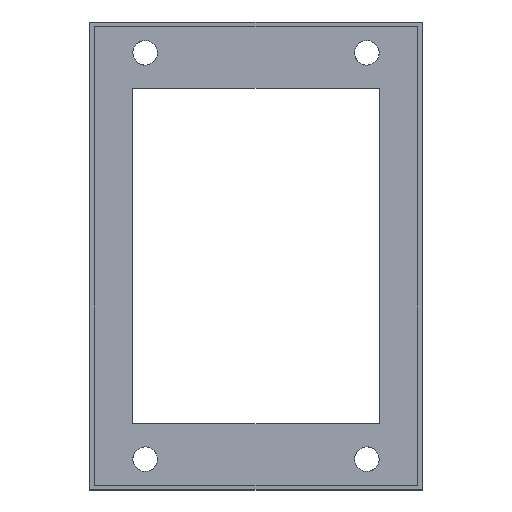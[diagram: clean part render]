
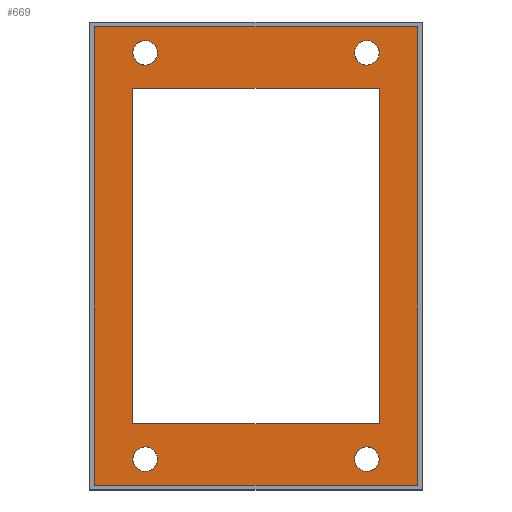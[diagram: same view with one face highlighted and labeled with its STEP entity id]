
A CAD part, top view. The second image highlights one B-rep face of the part: STEP entity #669.
In plain terms, the highlighted planar face has unit normal (0, 0, 1).
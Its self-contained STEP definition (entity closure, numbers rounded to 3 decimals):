
#231=CARTESIAN_POINT('Vertex',(-26.2,-37.2,0.8)) ;
#234=CARTESIAN_POINT('Line Origine',(-26.2,0.,0.8)) ;
#238=CARTESIAN_POINT('Vertex',(-26.2,37.2,0.8)) ;
#262=CARTESIAN_POINT('Vertex',(26.2,-37.2,0.8)) ;
#265=CARTESIAN_POINT('Line Origine',(0.,-37.2,0.8)) ;
#282=CARTESIAN_POINT('Line Origine',(26.2,0.,0.8)) ;
#286=CARTESIAN_POINT('Vertex',(26.2,37.2,0.8)) ;
#306=CARTESIAN_POINT('Line Origine',(0.,37.2,0.8)) ;
#323=CARTESIAN_POINT('Line Origine',(-20.,0.,0.8)) ;
#327=CARTESIAN_POINT('Vertex',(-20.,27.25,0.8)) ;
#329=CARTESIAN_POINT('Vertex',(-20.,-27.25,0.8)) ;
#363=CARTESIAN_POINT('Line Origine',(0.,-27.25,0.8)) ;
#367=CARTESIAN_POINT('Vertex',(20.,-27.25,0.8)) ;
#394=CARTESIAN_POINT('Line Origine',(0.,27.25,0.8)) ;
#398=CARTESIAN_POINT('Vertex',(20.,27.25,0.8)) ;
#425=CARTESIAN_POINT('Line Origine',(20.,0.,0.8)) ;
#532=CARTESIAN_POINT('Axis2P3D Location',(0.,0.,0.8)) ;
#550=CARTESIAN_POINT('Control Point',(-16.,-33.,0.8)) ;
#551=CARTESIAN_POINT('Control Point',(-16.,-32.372,0.8)) ;
#552=CARTESIAN_POINT('Control Point',(-16.247,-31.743,0.8)) ;
#553=CARTESIAN_POINT('Control Point',(-16.743,-31.247,0.8)) ;
#554=CARTESIAN_POINT('Control Point',(-18.,-30.753,0.8)) ;
#555=CARTESIAN_POINT('Control Point',(-19.257,-31.247,0.8)) ;
#556=CARTESIAN_POINT('Control Point',(-19.753,-31.743,0.8)) ;
#557=CARTESIAN_POINT('Control Point',(-20.,-32.372,0.8)) ;
#558=CARTESIAN_POINT('Control Point',(-20.,-33.,0.8)) ;
#559=CARTESIAN_POINT('Vertex',(-16.,-33.,0.8)) ;
#561=CARTESIAN_POINT('Vertex',(-20.,-33.,0.8)) ;
#565=CARTESIAN_POINT('Control Point',(-20.,-33.,0.8)) ;
#566=CARTESIAN_POINT('Control Point',(-20.,-33.628,0.8)) ;
#567=CARTESIAN_POINT('Control Point',(-19.753,-34.257,0.8)) ;
#568=CARTESIAN_POINT('Control Point',(-19.257,-34.753,0.8)) ;
#569=CARTESIAN_POINT('Control Point',(-18.,-35.247,0.8)) ;
#570=CARTESIAN_POINT('Control Point',(-16.743,-34.753,0.8)) ;
#571=CARTESIAN_POINT('Control Point',(-16.247,-34.257,0.8)) ;
#572=CARTESIAN_POINT('Control Point',(-16.,-33.628,0.8)) ;
#573=CARTESIAN_POINT('Control Point',(-16.,-33.,0.8)) ;
#580=CARTESIAN_POINT('Control Point',(20.,-33.,0.8)) ;
#581=CARTESIAN_POINT('Control Point',(20.,-32.372,0.8)) ;
#582=CARTESIAN_POINT('Control Point',(19.753,-31.743,0.8)) ;
#583=CARTESIAN_POINT('Control Point',(19.257,-31.247,0.8)) ;
#584=CARTESIAN_POINT('Control Point',(18.,-30.753,0.8)) ;
#585=CARTESIAN_POINT('Control Point',(16.743,-31.247,0.8)) ;
#586=CARTESIAN_POINT('Control Point',(16.247,-31.743,0.8)) ;
#587=CARTESIAN_POINT('Control Point',(16.,-32.372,0.8)) ;
#588=CARTESIAN_POINT('Control Point',(16.,-33.,0.8)) ;
#589=CARTESIAN_POINT('Vertex',(20.,-33.,0.8)) ;
#591=CARTESIAN_POINT('Vertex',(16.,-33.,0.8)) ;
#595=CARTESIAN_POINT('Control Point',(16.,-33.,0.8)) ;
#596=CARTESIAN_POINT('Control Point',(16.,-33.628,0.8)) ;
#597=CARTESIAN_POINT('Control Point',(16.247,-34.257,0.8)) ;
#598=CARTESIAN_POINT('Control Point',(16.743,-34.753,0.8)) ;
#599=CARTESIAN_POINT('Control Point',(18.,-35.247,0.8)) ;
#600=CARTESIAN_POINT('Control Point',(19.257,-34.753,0.8)) ;
#601=CARTESIAN_POINT('Control Point',(19.753,-34.257,0.8)) ;
#602=CARTESIAN_POINT('Control Point',(20.,-33.628,0.8)) ;
#603=CARTESIAN_POINT('Control Point',(20.,-33.,0.8)) ;
#610=CARTESIAN_POINT('Control Point',(20.,33.,0.8)) ;
#611=CARTESIAN_POINT('Control Point',(20.,33.628,0.8)) ;
#612=CARTESIAN_POINT('Control Point',(19.753,34.257,0.8)) ;
#613=CARTESIAN_POINT('Control Point',(19.257,34.753,0.8)) ;
#614=CARTESIAN_POINT('Control Point',(18.,35.247,0.8)) ;
#615=CARTESIAN_POINT('Control Point',(16.743,34.753,0.8)) ;
#616=CARTESIAN_POINT('Control Point',(16.247,34.257,0.8)) ;
#617=CARTESIAN_POINT('Control Point',(16.,33.628,0.8)) ;
#618=CARTESIAN_POINT('Control Point',(16.,33.,0.8)) ;
#619=CARTESIAN_POINT('Vertex',(20.,33.,0.8)) ;
#621=CARTESIAN_POINT('Vertex',(16.,33.,0.8)) ;
#625=CARTESIAN_POINT('Control Point',(16.,33.,0.8)) ;
#626=CARTESIAN_POINT('Control Point',(16.,32.372,0.8)) ;
#627=CARTESIAN_POINT('Control Point',(16.247,31.743,0.8)) ;
#628=CARTESIAN_POINT('Control Point',(16.743,31.247,0.8)) ;
#629=CARTESIAN_POINT('Control Point',(18.,30.753,0.8)) ;
#630=CARTESIAN_POINT('Control Point',(19.257,31.247,0.8)) ;
#631=CARTESIAN_POINT('Control Point',(19.753,31.743,0.8)) ;
#632=CARTESIAN_POINT('Control Point',(20.,32.372,0.8)) ;
#633=CARTESIAN_POINT('Control Point',(20.,33.,0.8)) ;
#640=CARTESIAN_POINT('Control Point',(-16.,33.,0.8)) ;
#641=CARTESIAN_POINT('Control Point',(-16.,33.628,0.8)) ;
#642=CARTESIAN_POINT('Control Point',(-16.247,34.257,0.8)) ;
#643=CARTESIAN_POINT('Control Point',(-16.743,34.753,0.8)) ;
#644=CARTESIAN_POINT('Control Point',(-18.,35.247,0.8)) ;
#645=CARTESIAN_POINT('Control Point',(-19.257,34.753,0.8)) ;
#646=CARTESIAN_POINT('Control Point',(-19.753,34.257,0.8)) ;
#647=CARTESIAN_POINT('Control Point',(-20.,33.628,0.8)) ;
#648=CARTESIAN_POINT('Control Point',(-20.,33.,0.8)) ;
#649=CARTESIAN_POINT('Vertex',(-16.,33.,0.8)) ;
#651=CARTESIAN_POINT('Vertex',(-20.,33.,0.8)) ;
#655=CARTESIAN_POINT('Control Point',(-20.,33.,0.8)) ;
#656=CARTESIAN_POINT('Control Point',(-20.,32.372,0.8)) ;
#657=CARTESIAN_POINT('Control Point',(-19.753,31.743,0.8)) ;
#658=CARTESIAN_POINT('Control Point',(-19.257,31.247,0.8)) ;
#659=CARTESIAN_POINT('Control Point',(-18.,30.753,0.8)) ;
#660=CARTESIAN_POINT('Control Point',(-16.743,31.247,0.8)) ;
#661=CARTESIAN_POINT('Control Point',(-16.247,31.743,0.8)) ;
#662=CARTESIAN_POINT('Control Point',(-16.,32.372,0.8)) ;
#663=CARTESIAN_POINT('Control Point',(-16.,33.,0.8)) ;
#235=DIRECTION('Vector Direction',(0.,1.,0.)) ;
#266=DIRECTION('Vector Direction',(1.,0.,0.)) ;
#283=DIRECTION('Vector Direction',(0.,1.,0.)) ;
#307=DIRECTION('Vector Direction',(-1.,0.,0.)) ;
#324=DIRECTION('Vector Direction',(0.,-1.,0.)) ;
#364=DIRECTION('Vector Direction',(1.,0.,0.)) ;
#395=DIRECTION('Vector Direction',(-1.,0.,0.)) ;
#426=DIRECTION('Vector Direction',(0.,1.,0.)) ;
#533=DIRECTION('Axis2P3D Direction',(0.,0.,1.)) ;
#534=DIRECTION('Axis2P3D XDirection',(1.,0.,0.)) ;
#535=AXIS2_PLACEMENT_3D('Plane Axis2P3D',#532,#533,#534) ;
#538=ORIENTED_EDGE('',*,*,#240,.T.) ;
#539=ORIENTED_EDGE('',*,*,#269,.F.) ;
#540=ORIENTED_EDGE('',*,*,#288,.T.) ;
#541=ORIENTED_EDGE('',*,*,#310,.T.) ;
#544=ORIENTED_EDGE('',*,*,#400,.F.) ;
#545=ORIENTED_EDGE('',*,*,#429,.F.) ;
#546=ORIENTED_EDGE('',*,*,#369,.F.) ;
#547=ORIENTED_EDGE('',*,*,#331,.F.) ;
#576=ORIENTED_EDGE('',*,*,#563,.F.) ;
#577=ORIENTED_EDGE('',*,*,#574,.F.) ;
#606=ORIENTED_EDGE('',*,*,#593,.F.) ;
#607=ORIENTED_EDGE('',*,*,#604,.F.) ;
#636=ORIENTED_EDGE('',*,*,#623,.F.) ;
#637=ORIENTED_EDGE('',*,*,#634,.F.) ;
#666=ORIENTED_EDGE('',*,*,#653,.F.) ;
#667=ORIENTED_EDGE('',*,*,#664,.F.) ;
#548=FACE_BOUND('',#543,.T.) ;
#578=FACE_BOUND('',#575,.T.) ;
#608=FACE_BOUND('',#605,.T.) ;
#638=FACE_BOUND('',#635,.T.) ;
#668=FACE_BOUND('',#665,.T.) ;
#236=VECTOR('Line Direction',#235,1.) ;
#267=VECTOR('Line Direction',#266,1.) ;
#284=VECTOR('Line Direction',#283,1.) ;
#308=VECTOR('Line Direction',#307,1.) ;
#325=VECTOR('Line Direction',#324,1.) ;
#365=VECTOR('Line Direction',#364,1.) ;
#396=VECTOR('Line Direction',#395,1.) ;
#427=VECTOR('Line Direction',#426,1.) ;
#669=ADVANCED_FACE('PartBody',(#542,#548,#578,#608,#638,#668),#536,.T.) ;
#549=B_SPLINE_CURVE_WITH_KNOTS('',5,(#550,#551,#552,#553,#554,#555,#556,#557,#558),.UNSPECIFIED.,.F.,.U.,(6,3,6),(0.,3.142,6.283),.UNSPECIFIED.) ;
#564=B_SPLINE_CURVE_WITH_KNOTS('',5,(#565,#566,#567,#568,#569,#570,#571,#572,#573),.UNSPECIFIED.,.F.,.U.,(6,3,6),(6.283,9.425,12.566),.UNSPECIFIED.) ;
#579=B_SPLINE_CURVE_WITH_KNOTS('',5,(#580,#581,#582,#583,#584,#585,#586,#587,#588),.UNSPECIFIED.,.F.,.U.,(6,3,6),(0.,3.142,6.283),.UNSPECIFIED.) ;
#594=B_SPLINE_CURVE_WITH_KNOTS('',5,(#595,#596,#597,#598,#599,#600,#601,#602,#603),.UNSPECIFIED.,.F.,.U.,(6,3,6),(6.283,9.425,12.566),.UNSPECIFIED.) ;
#609=B_SPLINE_CURVE_WITH_KNOTS('',5,(#610,#611,#612,#613,#614,#615,#616,#617,#618),.UNSPECIFIED.,.F.,.U.,(6,3,6),(0.,3.142,6.283),.UNSPECIFIED.) ;
#624=B_SPLINE_CURVE_WITH_KNOTS('',5,(#625,#626,#627,#628,#629,#630,#631,#632,#633),.UNSPECIFIED.,.F.,.U.,(6,3,6),(6.283,9.425,12.566),.UNSPECIFIED.) ;
#639=B_SPLINE_CURVE_WITH_KNOTS('',5,(#640,#641,#642,#643,#644,#645,#646,#647,#648),.UNSPECIFIED.,.F.,.U.,(6,3,6),(0.,3.142,6.283),.UNSPECIFIED.) ;
#654=B_SPLINE_CURVE_WITH_KNOTS('',5,(#655,#656,#657,#658,#659,#660,#661,#662,#663),.UNSPECIFIED.,.F.,.U.,(6,3,6),(6.283,9.425,12.566),.UNSPECIFIED.) ;
#240=EDGE_CURVE('',#239,#232,#237,.F.) ;
#269=EDGE_CURVE('',#263,#232,#268,.F.) ;
#288=EDGE_CURVE('',#263,#287,#285,.T.) ;
#310=EDGE_CURVE('',#287,#239,#309,.T.) ;
#331=EDGE_CURVE('',#328,#330,#326,.T.) ;
#369=EDGE_CURVE('',#330,#368,#366,.T.) ;
#400=EDGE_CURVE('',#399,#328,#397,.T.) ;
#429=EDGE_CURVE('',#368,#399,#428,.T.) ;
#563=EDGE_CURVE('',#560,#562,#549,.T.) ;
#574=EDGE_CURVE('',#562,#560,#564,.T.) ;
#593=EDGE_CURVE('',#590,#592,#579,.T.) ;
#604=EDGE_CURVE('',#592,#590,#594,.T.) ;
#623=EDGE_CURVE('',#620,#622,#609,.T.) ;
#634=EDGE_CURVE('',#622,#620,#624,.T.) ;
#653=EDGE_CURVE('',#650,#652,#639,.T.) ;
#664=EDGE_CURVE('',#652,#650,#654,.T.) ;
#537=EDGE_LOOP('',(#538,#539,#540,#541)) ;
#543=EDGE_LOOP('',(#544,#545,#546,#547)) ;
#575=EDGE_LOOP('',(#576,#577)) ;
#605=EDGE_LOOP('',(#606,#607)) ;
#635=EDGE_LOOP('',(#636,#637)) ;
#665=EDGE_LOOP('',(#666,#667)) ;
#542=FACE_OUTER_BOUND('',#537,.T.) ;
#237=LINE('Line',#234,#236) ;
#268=LINE('Line',#265,#267) ;
#285=LINE('Line',#282,#284) ;
#309=LINE('Line',#306,#308) ;
#326=LINE('Line',#323,#325) ;
#366=LINE('Line',#363,#365) ;
#397=LINE('Line',#394,#396) ;
#428=LINE('Line',#425,#427) ;
#536=PLANE('Plane',#535) ;
#232=VERTEX_POINT('',#231) ;
#239=VERTEX_POINT('',#238) ;
#263=VERTEX_POINT('',#262) ;
#287=VERTEX_POINT('',#286) ;
#328=VERTEX_POINT('',#327) ;
#330=VERTEX_POINT('',#329) ;
#368=VERTEX_POINT('',#367) ;
#399=VERTEX_POINT('',#398) ;
#560=VERTEX_POINT('',#559) ;
#562=VERTEX_POINT('',#561) ;
#590=VERTEX_POINT('',#589) ;
#592=VERTEX_POINT('',#591) ;
#620=VERTEX_POINT('',#619) ;
#622=VERTEX_POINT('',#621) ;
#650=VERTEX_POINT('',#649) ;
#652=VERTEX_POINT('',#651) ;
